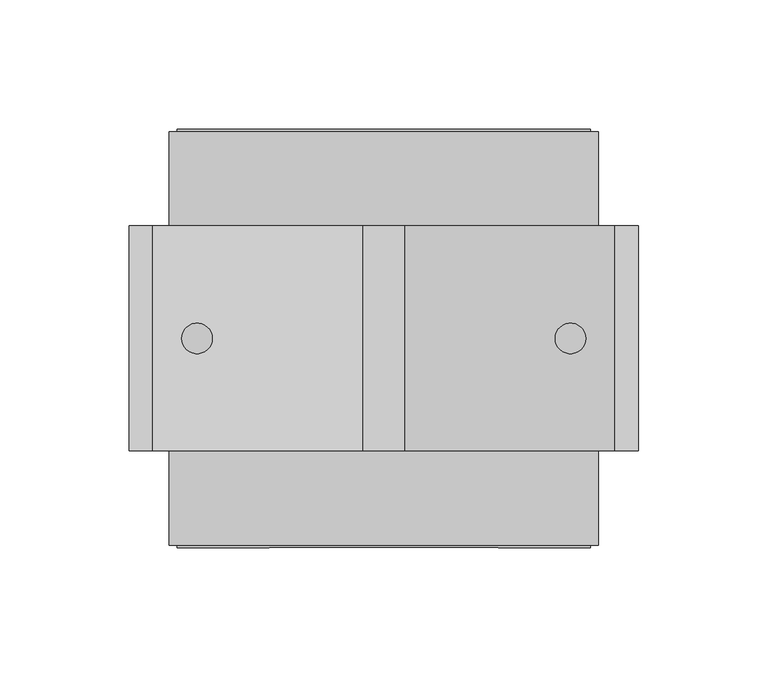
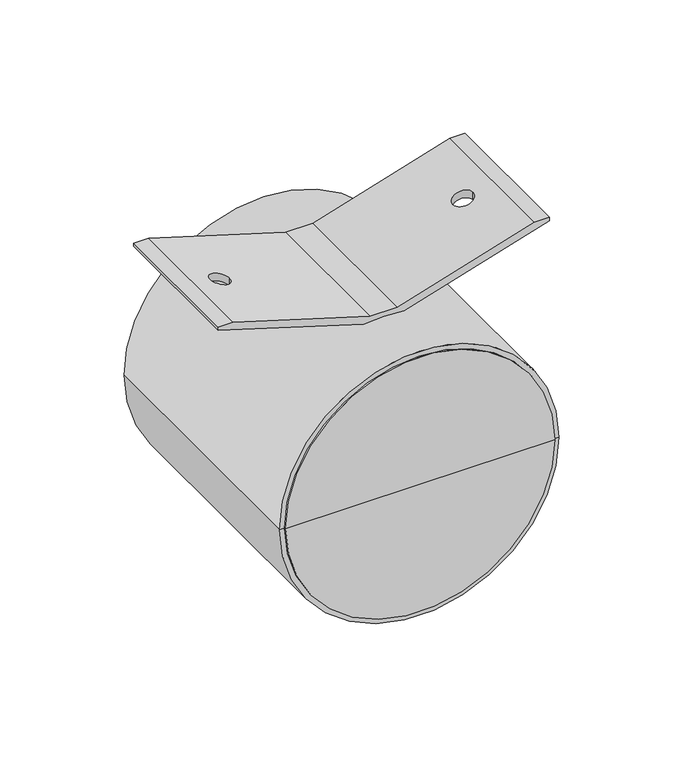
"""IFC4 building model written with IfcOpenShell, lengths in millimetres: proxy geometry, 230208 BIM Data_IMPI 2510T VA : IMPI 2510 VA."""

from ifc_helpers import new_model, si_unit, frame, origin, place, context, project, spatial, polyline, circle_curve, ellipse_curve, source, transform, mapped, element, save
from ifc_brep_helpers import plane_surface, cylinder_surface, revolved_surface, advanced_brep


def communication_devices_3f4bb34d(model_context):
    return source(origin(), model_context, "Body", "AdvancedBrep", [
        advanced_brep(
        [(-98.5, 36.500062, -2.0), (-12.162641, 36.500062, -28.3959796), (12.162641, 36.500062, -28.3959796), (98.5, 36.500062, -2.0), (98.5, 36.500062, 0.0), (89.5, 36.500062, 0.0), (8.2140957, 36.500062, -24.8515949), (-8.2140957, 36.500062, -24.8515949), (-89.5, 36.500062, 0.0), (-98.5, 36.500062, 0.0), (-98.5, 123.500062, -2.0), (-98.5, 123.500062, 0.0), (-89.5, 123.500062, 0.0), (-8.2140957, 123.500062, -24.8515949), (8.2140957, 123.500062, -24.8515949), (89.5, 123.500062, 0.0), (98.5, 123.500062, 0.0), (98.5, 123.500062, -2.0), (12.162641, 123.500062, -28.3959796), (-12.162641, 123.500062, -28.3959796), (-78.152063, 80.000001, -8.2209886), (-66.347937, 80.000001, -11.8298721), (-66.347937, 80.000001, -7.078296), (-78.152063, 80.000001, -3.4694125), (66.347937, 80.000001, -11.8298721), (78.152063, 80.000001, -8.2209886), (78.152063, 80.000001, -3.4694125), (66.347937, 80.000001, -7.078296)],
        [
            (0, 1),
            (1, 2, circle_curve(frame((0.0, 36.500062, -110.5), z_axis=(0.0, 1.0, 0.0), x_axis=(1.0, 0.0, 0.0)), 83.0)),
            (2, 3),
            (3, 4),
            (4, 5),
            (5, 6),
            (6, 7),
            (7, 8),
            (8, 9),
            (9, 0),
            (10, 11),
            (11, 12),
            (12, 13),
            (13, 14),
            (14, 15),
            (15, 16),
            (16, 17),
            (17, 18),
            (18, 19, circle_curve(frame((0.0, 123.500062, -110.5), z_axis=(0.0, -1.0, 0.0), x_axis=(1.0, 0.0, 0.0)), 83.0)),
            (19, 10),
            (0, 10),
            (19, 1),
            (20, 21, ellipse_curve(frame((-72.25, 80.000001, -10.0254304), z_axis=(0.29237170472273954, 0.0, 0.9563047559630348), x_axis=(-0.956304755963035, 0.0, 0.29237170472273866)), 6.1717387, 5.902063)),
            (21, 20, ellipse_curve(frame((-72.25, 80.000001, -10.0254304), z_axis=(0.29237170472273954, 0.0, 0.9563047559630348), x_axis=(-0.956304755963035, 0.0, 0.29237170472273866)), 6.1717387, 5.902063)),
            (7, 13),
            (12, 8),
            (22, 23, ellipse_curve(frame((-72.25, 80.000001, -5.2738543), z_axis=(-0.29237170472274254, 0.0, -0.9563047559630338), x_axis=(-0.9563047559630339, 0.0, 0.2923717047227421)), 6.1717387, 5.902063)),
            (23, 22, ellipse_curve(frame((-72.25, 80.000001, -5.2738543), z_axis=(-0.29237170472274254, 0.0, -0.9563047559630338), x_axis=(-0.9563047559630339, 0.0, 0.2923717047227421)), 6.1717387, 5.902063)),
            (11, 9),
            (20, 23),
            (22, 21),
            (18, 2),
            (17, 3),
            (24, 25, ellipse_curve(frame((72.25, 80.000001, -10.0254304), z_axis=(-0.29237170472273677, 0.0, 0.9563047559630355), x_axis=(0.9563047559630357, 0.0, 0.2923717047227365)), 6.1717387, 5.902063)),
            (25, 24, ellipse_curve(frame((72.25, 80.000001, -10.0254304), z_axis=(-0.29237170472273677, 0.0, 0.9563047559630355), x_axis=(0.9563047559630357, 0.0, 0.2923717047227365)), 6.1717387, 5.902063)),
            (16, 4),
            (15, 5),
            (14, 6),
            (26, 27, ellipse_curve(frame((72.25, 80.000001, -5.2738543), z_axis=(0.2923717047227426, 0.0, -0.9563047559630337), x_axis=(0.9563047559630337, 0.0, 0.29237170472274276)), 6.1717387, 5.902063)),
            (27, 26, ellipse_curve(frame((72.25, 80.000001, -5.2738543), z_axis=(0.2923717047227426, 0.0, -0.9563047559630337), x_axis=(0.9563047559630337, 0.0, 0.29237170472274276)), 6.1717387, 5.902063)),
            (24, 27),
            (26, 25),
        ],
        [
            plane_surface(frame((-98.5, 36.500062, -2.0), z_axis=(0.0, -1.0000000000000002, 0.0), x_axis=(0.9563047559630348, 0.0, -0.29237170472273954))),
            plane_surface(frame((-98.5, 123.500062, -2.0), z_axis=(0.0, 1.0000000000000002, 0.0), x_axis=(-0.9563047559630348, 0.0, 0.29237170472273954))),
            plane_surface(frame((-98.5, 36.500062, -2.0), z_axis=(-0.29237170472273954, 0.0, -0.9563047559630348), x_axis=(0.0, 1.0, 0.0))),
            plane_surface(frame((-8.2140957, 36.500062, -24.8515949), z_axis=(0.29237170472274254, 0.0, 0.9563047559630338), x_axis=(0.0, 1.0, 0.0))),
            plane_surface(frame((-89.5, 36.500062, 0.0), z_axis=(0.0, 0.0, 1.0), x_axis=(0.0, 1.0, 0.0))),
            plane_surface(frame((-98.5, 36.500062, 0.0), z_axis=(-1.0, 0.0, 0.0), x_axis=(0.0, 1.0, 0.0))),
            revolved_surface(polyline([(-66.347937, 80.000001, -3.4694125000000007), (-66.347937, 80.000001, -11.829872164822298)]), (-72.25, 80.000001, -25.0), (0.0, 0.0, 1.0)),
            revolved_surface(polyline([(83.0, 123.500062, -110.5), (83.0, 36.500062, -110.5)]), (0.0, 123.500062, -110.5), (0.0, 1.0, 0.0)),
            plane_surface(frame((12.162641, 36.500062, -28.3959796), z_axis=(0.29237170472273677, 0.0, -0.9563047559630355), x_axis=(0.0, 1.0, 0.0))),
            plane_surface(frame((98.5, 36.500062, -2.0), z_axis=(1.0, 0.0, 0.0), x_axis=(0.0, 1.0, 0.0))),
            plane_surface(frame((98.5, 36.500062, 0.0), z_axis=(0.0, 0.0, 1.0), x_axis=(0.0, 1.0, 0.0))),
            plane_surface(frame((89.5, 36.500062, 0.0), z_axis=(-0.2923717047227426, 0.0, 0.9563047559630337), x_axis=(0.0, 1.0, 0.0))),
            plane_surface(frame((8.2140957, 36.500062, -24.8515949), z_axis=(0.0, 0.0, 1.0), x_axis=(0.0, 1.0, 0.0))),
            revolved_surface(polyline([(78.152063, 80.000001, -3.4694125), (78.152063, 80.000001, -11.829872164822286)]), (72.25, 80.000001, 0.0), (0.0, 0.0, 1.0)),
        ],
        [
            (0, [[1, 2, 3, 4, 5, 6, 7, 8, 9, 10]]),
            (1, [[11, 12, 13, 14, 15, 16, 17, 18, 19, 20]]),
            (2, [[-1, 21, -20, 22], [23, 24]]),
            (3, [[-8, 25, -13, 26], [27, 28]]),
            (4, [[-9, -26, -12, 29]]),
            (5, [[-10, -29, -11, -21]]),
            (6, [[30, -27, 31, -23]]),
            (6, [[-30, -24, -31, -28]]),
            (7, [[-2, -22, -19, 32]]),
            (8, [[-3, -32, -18, 33], [34, 35]]),
            (9, [[-4, -33, -17, 36]]),
            (10, [[-5, -36, -16, 37]]),
            (11, [[-6, -37, -15, 38], [39, 40]]),
            (12, [[-7, -38, -14, -25]]),
            (13, [[41, -39, 42, -34]]),
            (13, [[-41, -35, -42, -40]]),
        ],
    ),
        advanced_brep(
        [(80.0, 160.0, -110.5), (-80.0, 160.0, -110.5), (-80.0, 160.8609376, -110.5), (80.0, 160.8609376, -110.5), (0.0, 160.0, -110.5), (0.0, 160.8609376, -110.5)],
        [
            (0, 1, circle_curve(frame((0.0, 160.0, -110.5), z_axis=(0.0, 1.0, 0.0), x_axis=(-1.0, 0.0, 0.0)), 80.0)),
            (1, 2),
            (2, 3, circle_curve(frame((0.0, 160.8609376, -110.5), z_axis=(0.0, -1.0, 0.0), x_axis=(-1.0, 0.0, 0.0)), 80.0)),
            (3, 0),
            (1, 0, circle_curve(frame((0.0, 160.0, -110.5), z_axis=(0.0, 1.0, 0.0), x_axis=(-1.0, 0.0, 0.0)), 80.0)),
            (3, 2, circle_curve(frame((0.0, 160.8609376, -110.5), z_axis=(0.0, -1.0, 0.0), x_axis=(-1.0, 0.0, 0.0)), 80.0)),
            (4, 1),
            (0, 4),
            (2, 5),
            (5, 3),
        ],
        [
            cylinder_surface(frame((0.0, 160.8609376, -110.5), z_axis=(0.0, -1.0, 0.0), x_axis=(-1.0, 0.0, 0.0)), 80.0),
            plane_surface(frame((0.0, 160.0, -110.5), z_axis=(0.0, -1.0, 0.0), x_axis=(-1.0, 0.0, 0.0))),
            plane_surface(frame((0.0, 160.8609376, -110.5), z_axis=(0.0, 1.0, 0.0), x_axis=(-1.0, 0.0, 0.0))),
        ],
        [
            (0, [[1, 2, 3, 4]]),
            (0, [[5, -4, 6, -2]]),
            (1, [[7, -1, 8]]),
            (1, [[-8, -5, -7]]),
            (2, [[-3, 9, 10]]),
            (2, [[-6, -10, -9]]),
        ],
    ),
        advanced_brep(
        [(0.0, -0.8608136, -110.5), (-80.0, -0.8608136, -110.5), (80.0, -0.8608136, -110.5), (80.0, 0.000124, -110.5), (-80.0, 0.000124, -110.5), (0.0, 0.000124, -110.5)],
        [
            (0, 1),
            (1, 2, circle_curve(frame((0.0, -0.8608136, -110.5), z_axis=(0.0, -1.0, 0.0), x_axis=(-1.0, 0.0, 0.0)), 80.0)),
            (2, 0),
            (2, 1, circle_curve(frame((0.0, -0.8608136, -110.5), z_axis=(0.0, -1.0, 0.0), x_axis=(-1.0, 0.0, 0.0)), 80.0)),
            (3, 4, circle_curve(frame((0.0, 0.000124, -110.5), z_axis=(0.0, 1.0, 0.0), x_axis=(-1.0, 0.0, 0.0)), 80.0)),
            (4, 5),
            (5, 3),
            (4, 3, circle_curve(frame((0.0, 0.000124, -110.5), z_axis=(0.0, 1.0, 0.0), x_axis=(-1.0, 0.0, 0.0)), 80.0)),
            (1, 4),
            (3, 2),
        ],
        [
            plane_surface(frame((0.0, -0.8608136, -110.5), z_axis=(0.0, -1.0, 0.0), x_axis=(-1.0, 0.0, 0.0))),
            plane_surface(frame((0.0, 0.000124, -110.5), z_axis=(0.0, 1.0, 0.0), x_axis=(-1.0, 0.0, 0.0))),
            cylinder_surface(frame((0.0, 160.8609376, -110.5), z_axis=(0.0, -1.0, 0.0), x_axis=(-1.0, 0.0, 0.0)), 80.0),
        ],
        [
            (0, [[1, 2, 3]]),
            (0, [[-3, 4, -1]]),
            (1, [[5, 6, 7]]),
            (1, [[8, -7, -6]]),
            (2, [[-2, 9, -5, 10]]),
            (2, [[-4, -10, -8, -9]]),
        ],
    ),
        advanced_brep(
        [(0.0, 0.0, -110.5), (-83.0, 0.0, -110.5), (83.0, 0.0, -110.5), (83.0, 160.0, -110.5), (-83.0, 160.0, -110.5), (0.0, 160.0, -110.5)],
        [
            (0, 1),
            (1, 2, circle_curve(frame((0.0, 0.0, -110.5), z_axis=(0.0, -1.0, 0.0), x_axis=(-1.0, 0.0, 0.0)), 83.0)),
            (2, 0),
            (2, 1, circle_curve(frame((0.0, 0.0, -110.5), z_axis=(0.0, -1.0, 0.0), x_axis=(-1.0, 0.0, 0.0)), 83.0)),
            (3, 4, circle_curve(frame((0.0, 160.0, -110.5), z_axis=(0.0, 1.0, 0.0), x_axis=(-1.0, 0.0, 0.0)), 83.0)),
            (4, 5),
            (5, 3),
            (4, 3, circle_curve(frame((0.0, 160.0, -110.5), z_axis=(0.0, 1.0, 0.0), x_axis=(-1.0, 0.0, 0.0)), 83.0)),
            (1, 4),
            (3, 2),
        ],
        [
            plane_surface(frame((0.0, 0.0, -110.5), z_axis=(0.0, -1.0, 0.0), x_axis=(-1.0, 0.0, 0.0))),
            plane_surface(frame((0.0, 160.0, -110.5), z_axis=(0.0, 1.0, 0.0), x_axis=(-1.0, 0.0, 0.0))),
            cylinder_surface(frame((0.0, 155.0, -110.5), z_axis=(0.0, -1.0, 0.0), x_axis=(-1.0, 0.0, 0.0)), 83.0),
        ],
        [
            (0, [[1, 2, 3]]),
            (0, [[-3, 4, -1]]),
            (1, [[5, 6, 7]]),
            (1, [[8, -7, -6]]),
            (2, [[-2, 9, -5, 10]]),
            (2, [[-4, -10, -8, -9]]),
        ],
    ),
    ])


if __name__ == "__main__":
    model = new_model("IFC4")
    model_context = context("Model", 3, world=origin())
    ifc_project = project(units=[si_unit("LENGTHUNIT", "METRE", prefix="MILLI")], contexts=[model_context])
    site = spatial("IfcSite", under=ifc_project)
    building = spatial("IfcBuilding", under=site)
    placement = place(None, origin())
    communication_devices_shape = communication_devices_3f4bb34d(model_context)
    element("IfcBuildingElementProxy", 1, Name="230208 BIM Data_IMPI 2510T VA : IMPI 2510 VA", ObjectType="230208 BIM Data_IMPI 2510T VA : IMPI 2510 VA", at=placement, inside=building, context=model_context, shape_type="MappedRepresentation", body=[
        mapped(communication_devices_shape, transform((0.0, 0.0, 0.0), x_axis=(1.0, 0.0, 0.0), y_axis=(0.0, 1.0, 0.0), z_axis=(0.0, 0.0, 1.0))),
    ])
    save(model, "model.ifc")
